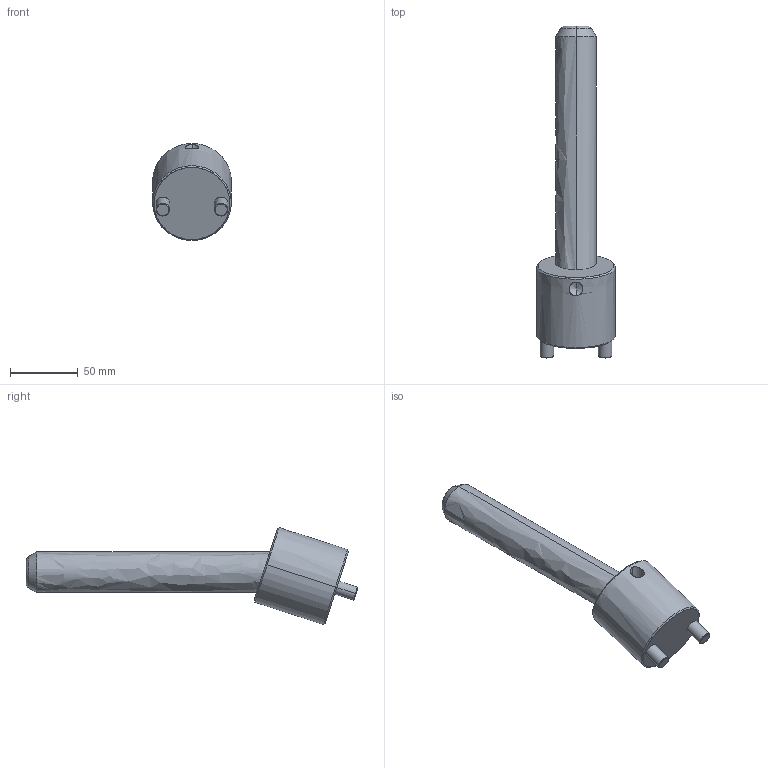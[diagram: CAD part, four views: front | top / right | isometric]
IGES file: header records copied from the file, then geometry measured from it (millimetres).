
Start section: START RECORD GO HERE.
Global section: file name: CI1830175.igs; native system: DASSAULT SYSTEMES CATIA V5 R20 - www.3ds.com; preprocessor: CATIA Version 5 Release 20 ; author: r.borello; organization: CFTORINO; date: 20190624.094749; units: millimetre
Bounding box: 58 x 244.82 x 71.54 mm (x, y, z)
Surface area: 42543.8 mm2 (no closed solid volume)
Topology: 0 solids, 0 shells, 39 faces, 162 edges, 160 vertices
Faces by surface type: revolution 32, plane 7
